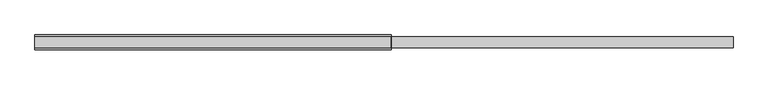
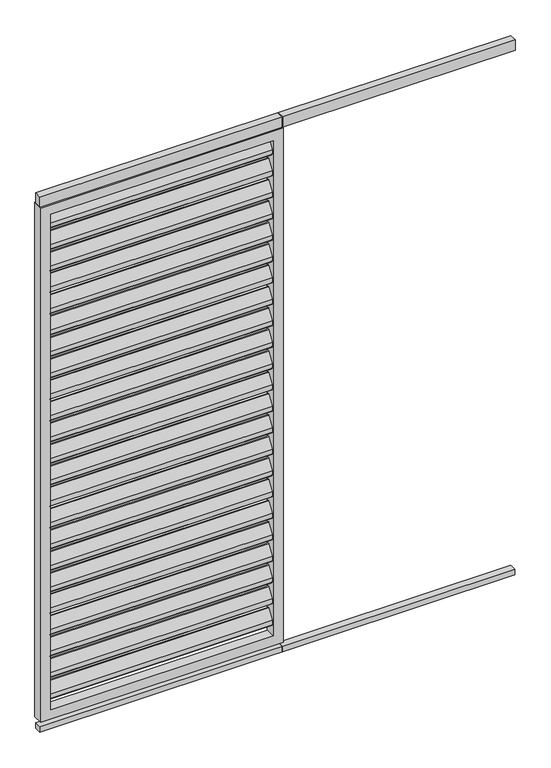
"""IFC4 building model written with IfcOpenShell, lengths in millimetres: proxy geometry, Renson_Camargue_Loggia_Paro_Aluminium : Renson_Camargue_Loggia_Paro_Aluminium."""

from ifc_helpers import new_model, si_unit, point, frame, frame_2d, origin, origin_with_axes, place, context, project, spatial, polyline, circle_curve, trimmed, segment, composite_curve, outline, extrude, source, transform, mapped, element, save


def generic_models_e57e72d8(model_context):
    return source(origin(), model_context, "Body", "SweptSolid", [
        extrude(outline(composite_curve([segment(trimmed(circle_curve(frame_2d((12.6675921, 2162.6587719)), 3.0), [point((10.1515804, 2164.292689))], [point((15.6675921, 2162.6587719))], False, "CARTESIAN"), True, "CONTINUOUS"), segment(polyline([(15.6675921, 2162.6587719), (15.6675921, 2144.2979873)]), True, "CONTINUOUS"), segment(trimmed(circle_curve(frame_2d((12.6675921, 2144.2979873)), 3.0), [point((15.6675921, 2144.2979873))], [point((15.1836038, 2142.6640702))], False, "CARTESIAN"), True, "CONTINUOUS"), segment(polyline([(15.1836038, 2142.6640702), (-8.8163962, 2105.707311)]), True, "CONTINUOUS"), segment(trimmed(circle_curve(frame_2d((-11.3324079, 2107.3412281)), 3.0), [point((-8.8163962, 2105.707311))], [point((-14.3324079, 2107.3412281))], False, "CARTESIAN"), True, "CONTINUOUS"), segment(polyline([(-14.3324079, 2107.3412281), (-14.3324079, 2126.5906532), (10.1515804, 2164.292689)]), True, "CONTINUOUS")], self_intersect=False)), frame((-442.5, 0.0, 0.0), z_axis=(1.0, 0.0, 0.0), x_axis=(0.0, 1.0, 0.0)), (0.0, 0.0, 1.0), 885.0),
        extrude(outline(composite_curve([segment(trimmed(circle_curve(frame_2d((12.6675921, 2072.6587719)), 3.0), [point((10.1515804, 2074.292689))], [point((15.6675921, 2072.6587719))], False, "CARTESIAN"), True, "CONTINUOUS"), segment(polyline([(15.6675921, 2072.6587719), (15.6675921, 2054.2979873)]), True, "CONTINUOUS"), segment(trimmed(circle_curve(frame_2d((12.6675921, 2054.2979873)), 3.0), [point((15.6675921, 2054.2979873))], [point((15.1836038, 2052.6640702))], False, "CARTESIAN"), True, "CONTINUOUS"), segment(polyline([(15.1836038, 2052.6640702), (-8.8163962, 2015.707311)]), True, "CONTINUOUS"), segment(trimmed(circle_curve(frame_2d((-11.3324079, 2017.3412281)), 3.0), [point((-8.8163962, 2015.707311))], [point((-14.3324079, 2017.3412281))], False, "CARTESIAN"), True, "CONTINUOUS"), segment(polyline([(-14.3324079, 2017.3412281), (-14.3324079, 2036.5906532), (10.1515804, 2074.292689)]), True, "CONTINUOUS")], self_intersect=False)), frame((-442.5, 0.0, 0.0), z_axis=(1.0, 0.0, 0.0), x_axis=(0.0, 1.0, 0.0)), (0.0, 0.0, 1.0), 885.0),
        extrude(outline(composite_curve([segment(trimmed(circle_curve(frame_2d((12.6675921, 1982.6587719)), 3.0), [point((10.1515804, 1984.292689))], [point((15.6675921, 1982.6587719))], False, "CARTESIAN"), True, "CONTINUOUS"), segment(polyline([(15.6675921, 1982.6587719), (15.6675921, 1964.2979873)]), True, "CONTINUOUS"), segment(trimmed(circle_curve(frame_2d((12.6675921, 1964.2979873)), 3.0), [point((15.6675921, 1964.2979873))], [point((15.1836038, 1962.6640702))], False, "CARTESIAN"), True, "CONTINUOUS"), segment(polyline([(15.1836038, 1962.6640702), (-8.8163962, 1925.707311)]), True, "CONTINUOUS"), segment(trimmed(circle_curve(frame_2d((-11.3324079, 1927.3412281)), 3.0), [point((-8.8163962, 1925.707311))], [point((-14.3324079, 1927.3412281))], False, "CARTESIAN"), True, "CONTINUOUS"), segment(polyline([(-14.3324079, 1927.3412281), (-14.3324079, 1946.5906532), (10.1515804, 1984.292689)]), True, "CONTINUOUS")], self_intersect=False)), frame((-442.5, 0.0, 0.0), z_axis=(1.0, 0.0, 0.0), x_axis=(0.0, 1.0, 0.0)), (0.0, 0.0, 1.0), 885.0),
        extrude(outline(composite_curve([segment(trimmed(circle_curve(frame_2d((12.6675921, 1892.6587719)), 3.0), [point((10.1515804, 1894.292689))], [point((15.6675921, 1892.6587719))], False, "CARTESIAN"), True, "CONTINUOUS"), segment(polyline([(15.6675921, 1892.6587719), (15.6675921, 1874.2979873)]), True, "CONTINUOUS"), segment(trimmed(circle_curve(frame_2d((12.6675921, 1874.2979873)), 3.0), [point((15.6675921, 1874.2979873))], [point((15.1836038, 1872.6640702))], False, "CARTESIAN"), True, "CONTINUOUS"), segment(polyline([(15.1836038, 1872.6640702), (-8.8163962, 1835.707311)]), True, "CONTINUOUS"), segment(trimmed(circle_curve(frame_2d((-11.3324079, 1837.3412281)), 3.0), [point((-8.8163962, 1835.707311))], [point((-14.3324079, 1837.3412281))], False, "CARTESIAN"), True, "CONTINUOUS"), segment(polyline([(-14.3324079, 1837.3412281), (-14.3324079, 1856.5906532), (10.1515804, 1894.292689)]), True, "CONTINUOUS")], self_intersect=False)), frame((-442.5, 0.0, 0.0), z_axis=(1.0, 0.0, 0.0), x_axis=(0.0, 1.0, 0.0)), (0.0, 0.0, 1.0), 885.0),
        extrude(outline(composite_curve([segment(trimmed(circle_curve(frame_2d((12.6675921, 1802.6587719)), 3.0), [point((10.1515804, 1804.292689))], [point((15.6675921, 1802.6587719))], False, "CARTESIAN"), True, "CONTINUOUS"), segment(polyline([(15.6675921, 1802.6587719), (15.6675921, 1784.2979873)]), True, "CONTINUOUS"), segment(trimmed(circle_curve(frame_2d((12.6675921, 1784.2979873)), 3.0), [point((15.6675921, 1784.2979873))], [point((15.1836038, 1782.6640702))], False, "CARTESIAN"), True, "CONTINUOUS"), segment(polyline([(15.1836038, 1782.6640702), (-8.8163962, 1745.707311)]), True, "CONTINUOUS"), segment(trimmed(circle_curve(frame_2d((-11.3324079, 1747.3412281)), 3.0), [point((-8.8163962, 1745.707311))], [point((-14.3324079, 1747.3412281))], False, "CARTESIAN"), True, "CONTINUOUS"), segment(polyline([(-14.3324079, 1747.3412281), (-14.3324079, 1766.5906532), (10.1515804, 1804.292689)]), True, "CONTINUOUS")], self_intersect=False)), frame((-442.5, 0.0, 0.0), z_axis=(1.0, 0.0, 0.0), x_axis=(0.0, 1.0, 0.0)), (0.0, 0.0, 1.0), 885.0),
        extrude(outline(composite_curve([segment(trimmed(circle_curve(frame_2d((12.6675921, 1712.6587719)), 3.0), [point((10.1515804, 1714.292689))], [point((15.6675921, 1712.6587719))], False, "CARTESIAN"), True, "CONTINUOUS"), segment(polyline([(15.6675921, 1712.6587719), (15.6675921, 1694.2979873)]), True, "CONTINUOUS"), segment(trimmed(circle_curve(frame_2d((12.6675921, 1694.2979873)), 3.0), [point((15.6675921, 1694.2979873))], [point((15.1836038, 1692.6640702))], False, "CARTESIAN"), True, "CONTINUOUS"), segment(polyline([(15.1836038, 1692.6640702), (-8.8163962, 1655.707311)]), True, "CONTINUOUS"), segment(trimmed(circle_curve(frame_2d((-11.3324079, 1657.3412281)), 3.0), [point((-8.8163962, 1655.707311))], [point((-14.3324079, 1657.3412281))], False, "CARTESIAN"), True, "CONTINUOUS"), segment(polyline([(-14.3324079, 1657.3412281), (-14.3324079, 1676.5906532), (10.1515804, 1714.292689)]), True, "CONTINUOUS")], self_intersect=False)), frame((-442.5, 0.0, 0.0), z_axis=(1.0, 0.0, 0.0), x_axis=(0.0, 1.0, 0.0)), (0.0, 0.0, 1.0), 885.0),
        extrude(outline(composite_curve([segment(trimmed(circle_curve(frame_2d((12.6675921, 1622.6587719)), 3.0), [point((10.1515804, 1624.292689))], [point((15.6675921, 1622.6587719))], False, "CARTESIAN"), True, "CONTINUOUS"), segment(polyline([(15.6675921, 1622.6587719), (15.6675921, 1604.2979873)]), True, "CONTINUOUS"), segment(trimmed(circle_curve(frame_2d((12.6675921, 1604.2979873)), 3.0), [point((15.6675921, 1604.2979873))], [point((15.1836038, 1602.6640702))], False, "CARTESIAN"), True, "CONTINUOUS"), segment(polyline([(15.1836038, 1602.6640702), (-8.8163962, 1565.707311)]), True, "CONTINUOUS"), segment(trimmed(circle_curve(frame_2d((-11.3324079, 1567.3412281)), 3.0), [point((-8.8163962, 1565.707311))], [point((-14.3324079, 1567.3412281))], False, "CARTESIAN"), True, "CONTINUOUS"), segment(polyline([(-14.3324079, 1567.3412281), (-14.3324079, 1586.5906532), (10.1515804, 1624.292689)]), True, "CONTINUOUS")], self_intersect=False)), frame((-442.5, 0.0, 0.0), z_axis=(1.0, 0.0, 0.0), x_axis=(0.0, 1.0, 0.0)), (0.0, 0.0, 1.0), 885.0),
        extrude(outline(composite_curve([segment(trimmed(circle_curve(frame_2d((12.6675921, 1532.6587719)), 3.0), [point((10.1515804, 1534.292689))], [point((15.6675921, 1532.6587719))], False, "CARTESIAN"), True, "CONTINUOUS"), segment(polyline([(15.6675921, 1532.6587719), (15.6675921, 1514.2979873)]), True, "CONTINUOUS"), segment(trimmed(circle_curve(frame_2d((12.6675921, 1514.2979873)), 3.0), [point((15.6675921, 1514.2979873))], [point((15.1836038, 1512.6640702))], False, "CARTESIAN"), True, "CONTINUOUS"), segment(polyline([(15.1836038, 1512.6640702), (-8.8163962, 1475.707311)]), True, "CONTINUOUS"), segment(trimmed(circle_curve(frame_2d((-11.3324079, 1477.3412281)), 3.0), [point((-8.8163962, 1475.707311))], [point((-14.3324079, 1477.3412281))], False, "CARTESIAN"), True, "CONTINUOUS"), segment(polyline([(-14.3324079, 1477.3412281), (-14.3324079, 1496.5906532), (10.1515804, 1534.292689)]), True, "CONTINUOUS")], self_intersect=False)), frame((-442.5, 0.0, 0.0), z_axis=(1.0, 0.0, 0.0), x_axis=(0.0, 1.0, 0.0)), (0.0, 0.0, 1.0), 885.0),
        extrude(outline(composite_curve([segment(trimmed(circle_curve(frame_2d((12.6675921, 1442.6587719)), 3.0), [point((10.1515804, 1444.292689))], [point((15.6675921, 1442.6587719))], False, "CARTESIAN"), True, "CONTINUOUS"), segment(polyline([(15.6675921, 1442.6587719), (15.6675921, 1424.2979873)]), True, "CONTINUOUS"), segment(trimmed(circle_curve(frame_2d((12.6675921, 1424.2979873)), 3.0), [point((15.6675921, 1424.2979873))], [point((15.1836038, 1422.6640702))], False, "CARTESIAN"), True, "CONTINUOUS"), segment(polyline([(15.1836038, 1422.6640702), (-8.8163962, 1385.707311)]), True, "CONTINUOUS"), segment(trimmed(circle_curve(frame_2d((-11.3324079, 1387.3412281)), 3.0), [point((-8.8163962, 1385.707311))], [point((-14.3324079, 1387.3412281))], False, "CARTESIAN"), True, "CONTINUOUS"), segment(polyline([(-14.3324079, 1387.3412281), (-14.3324079, 1406.5906532), (10.1515804, 1444.292689)]), True, "CONTINUOUS")], self_intersect=False)), frame((-442.5, 0.0, 0.0), z_axis=(1.0, 0.0, 0.0), x_axis=(0.0, 1.0, 0.0)), (0.0, 0.0, 1.0), 885.0),
        extrude(outline(composite_curve([segment(trimmed(circle_curve(frame_2d((12.6675921, 1352.6587719)), 3.0), [point((10.1515804, 1354.292689))], [point((15.6675921, 1352.6587719))], False, "CARTESIAN"), True, "CONTINUOUS"), segment(polyline([(15.6675921, 1352.6587719), (15.6675921, 1334.2979873)]), True, "CONTINUOUS"), segment(trimmed(circle_curve(frame_2d((12.6675921, 1334.2979873)), 3.0), [point((15.6675921, 1334.2979873))], [point((15.1836038, 1332.6640702))], False, "CARTESIAN"), True, "CONTINUOUS"), segment(polyline([(15.1836038, 1332.6640702), (-8.8163962, 1295.707311)]), True, "CONTINUOUS"), segment(trimmed(circle_curve(frame_2d((-11.3324079, 1297.3412281)), 3.0), [point((-8.8163962, 1295.707311))], [point((-14.3324079, 1297.3412281))], False, "CARTESIAN"), True, "CONTINUOUS"), segment(polyline([(-14.3324079, 1297.3412281), (-14.3324079, 1316.5906532), (10.1515804, 1354.292689)]), True, "CONTINUOUS")], self_intersect=False)), frame((-442.5, 0.0, 0.0), z_axis=(1.0, 0.0, 0.0), x_axis=(0.0, 1.0, 0.0)), (0.0, 0.0, 1.0), 885.0),
        extrude(outline(composite_curve([segment(trimmed(circle_curve(frame_2d((12.6675921, 1262.6587719)), 3.0), [point((10.1515804, 1264.292689))], [point((15.6675921, 1262.6587719))], False, "CARTESIAN"), True, "CONTINUOUS"), segment(polyline([(15.6675921, 1262.6587719), (15.6675921, 1244.2979873)]), True, "CONTINUOUS"), segment(trimmed(circle_curve(frame_2d((12.6675921, 1244.2979873)), 3.0), [point((15.6675921, 1244.2979873))], [point((15.1836038, 1242.6640702))], False, "CARTESIAN"), True, "CONTINUOUS"), segment(polyline([(15.1836038, 1242.6640702), (-8.8163962, 1205.707311)]), True, "CONTINUOUS"), segment(trimmed(circle_curve(frame_2d((-11.3324079, 1207.3412281)), 3.0), [point((-8.8163962, 1205.707311))], [point((-14.3324079, 1207.3412281))], False, "CARTESIAN"), True, "CONTINUOUS"), segment(polyline([(-14.3324079, 1207.3412281), (-14.3324079, 1226.5906532), (10.1515804, 1264.292689)]), True, "CONTINUOUS")], self_intersect=False)), frame((-442.5, 0.0, 0.0), z_axis=(1.0, 0.0, 0.0), x_axis=(0.0, 1.0, 0.0)), (0.0, 0.0, 1.0), 885.0),
        extrude(outline(composite_curve([segment(trimmed(circle_curve(frame_2d((12.6675921, 1172.6587719)), 3.0), [point((10.1515804, 1174.292689))], [point((15.6675921, 1172.6587719))], False, "CARTESIAN"), True, "CONTINUOUS"), segment(polyline([(15.6675921, 1172.6587719), (15.6675921, 1154.2979873)]), True, "CONTINUOUS"), segment(trimmed(circle_curve(frame_2d((12.6675921, 1154.2979873)), 3.0), [point((15.6675921, 1154.2979873))], [point((15.1836038, 1152.6640702))], False, "CARTESIAN"), True, "CONTINUOUS"), segment(polyline([(15.1836038, 1152.6640702), (-8.8163962, 1115.707311)]), True, "CONTINUOUS"), segment(trimmed(circle_curve(frame_2d((-11.3324079, 1117.3412281)), 3.0), [point((-8.8163962, 1115.707311))], [point((-14.3324079, 1117.3412281))], False, "CARTESIAN"), True, "CONTINUOUS"), segment(polyline([(-14.3324079, 1117.3412281), (-14.3324079, 1136.5906532), (10.1515804, 1174.292689)]), True, "CONTINUOUS")], self_intersect=False)), frame((-442.5, 0.0, 0.0), z_axis=(1.0, 0.0, 0.0), x_axis=(0.0, 1.0, 0.0)), (0.0, 0.0, 1.0), 885.0),
        extrude(outline(composite_curve([segment(trimmed(circle_curve(frame_2d((12.6675921, 1082.6587719)), 3.0), [point((10.1515804, 1084.292689))], [point((15.6675921, 1082.6587719))], False, "CARTESIAN"), True, "CONTINUOUS"), segment(polyline([(15.6675921, 1082.6587719), (15.6675921, 1064.2979873)]), True, "CONTINUOUS"), segment(trimmed(circle_curve(frame_2d((12.6675921, 1064.2979873)), 3.0), [point((15.6675921, 1064.2979873))], [point((15.1836038, 1062.6640702))], False, "CARTESIAN"), True, "CONTINUOUS"), segment(polyline([(15.1836038, 1062.6640702), (-8.8163962, 1025.707311)]), True, "CONTINUOUS"), segment(trimmed(circle_curve(frame_2d((-11.3324079, 1027.3412281)), 3.0), [point((-8.8163962, 1025.707311))], [point((-14.3324079, 1027.3412281))], False, "CARTESIAN"), True, "CONTINUOUS"), segment(polyline([(-14.3324079, 1027.3412281), (-14.3324079, 1046.5906532), (10.1515804, 1084.292689)]), True, "CONTINUOUS")], self_intersect=False)), frame((-442.5, 0.0, 0.0), z_axis=(1.0, 0.0, 0.0), x_axis=(0.0, 1.0, 0.0)), (0.0, 0.0, 1.0), 885.0),
        extrude(outline(composite_curve([segment(trimmed(circle_curve(frame_2d((12.6675921, 992.6587719)), 3.0), [point((10.1515804, 994.292689))], [point((15.6675921, 992.6587719))], False, "CARTESIAN"), True, "CONTINUOUS"), segment(polyline([(15.6675921, 992.6587719), (15.6675921, 974.2979873)]), True, "CONTINUOUS"), segment(trimmed(circle_curve(frame_2d((12.6675921, 974.2979873)), 3.0), [point((15.6675921, 974.2979873))], [point((15.1836038, 972.6640702))], False, "CARTESIAN"), True, "CONTINUOUS"), segment(polyline([(15.1836038, 972.6640702), (-8.8163962, 935.707311)]), True, "CONTINUOUS"), segment(trimmed(circle_curve(frame_2d((-11.3324079, 937.3412281)), 3.0), [point((-8.8163962, 935.707311))], [point((-14.3324079, 937.3412281))], False, "CARTESIAN"), True, "CONTINUOUS"), segment(polyline([(-14.3324079, 937.3412281), (-14.3324079, 956.5906532), (10.1515804, 994.292689)]), True, "CONTINUOUS")], self_intersect=False)), frame((-442.5, 0.0, 0.0), z_axis=(1.0, 0.0, 0.0), x_axis=(0.0, 1.0, 0.0)), (0.0, 0.0, 1.0), 885.0),
        extrude(outline(composite_curve([segment(trimmed(circle_curve(frame_2d((12.6675921, 902.6587719)), 3.0), [point((10.1515804, 904.292689))], [point((15.6675921, 902.6587719))], False, "CARTESIAN"), True, "CONTINUOUS"), segment(polyline([(15.6675921, 902.6587719), (15.6675921, 884.2979873)]), True, "CONTINUOUS"), segment(trimmed(circle_curve(frame_2d((12.6675921, 884.2979873)), 3.0), [point((15.6675921, 884.2979873))], [point((15.1836038, 882.6640702))], False, "CARTESIAN"), True, "CONTINUOUS"), segment(polyline([(15.1836038, 882.6640702), (-8.8163962, 845.707311)]), True, "CONTINUOUS"), segment(trimmed(circle_curve(frame_2d((-11.3324079, 847.3412281)), 3.0), [point((-8.8163962, 845.707311))], [point((-14.3324079, 847.3412281))], False, "CARTESIAN"), True, "CONTINUOUS"), segment(polyline([(-14.3324079, 847.3412281), (-14.3324079, 866.5906532), (10.1515804, 904.292689)]), True, "CONTINUOUS")], self_intersect=False)), frame((-442.5, 0.0, 0.0), z_axis=(1.0, 0.0, 0.0), x_axis=(0.0, 1.0, 0.0)), (0.0, 0.0, 1.0), 885.0),
        extrude(outline(composite_curve([segment(trimmed(circle_curve(frame_2d((12.6675921, 812.6587719)), 3.0), [point((10.1515804, 814.292689))], [point((15.6675921, 812.6587719))], False, "CARTESIAN"), True, "CONTINUOUS"), segment(polyline([(15.6675921, 812.6587719), (15.6675921, 794.2979873)]), True, "CONTINUOUS"), segment(trimmed(circle_curve(frame_2d((12.6675921, 794.2979873)), 3.0), [point((15.6675921, 794.2979873))], [point((15.1836038, 792.6640702))], False, "CARTESIAN"), True, "CONTINUOUS"), segment(polyline([(15.1836038, 792.6640702), (-8.8163962, 755.707311)]), True, "CONTINUOUS"), segment(trimmed(circle_curve(frame_2d((-11.3324079, 757.3412281)), 3.0), [point((-8.8163962, 755.707311))], [point((-14.3324079, 757.3412281))], False, "CARTESIAN"), True, "CONTINUOUS"), segment(polyline([(-14.3324079, 757.3412281), (-14.3324079, 776.5906532), (10.1515804, 814.292689)]), True, "CONTINUOUS")], self_intersect=False)), frame((-442.5, 0.0, 0.0), z_axis=(1.0, 0.0, 0.0), x_axis=(0.0, 1.0, 0.0)), (0.0, 0.0, 1.0), 885.0),
        extrude(outline(composite_curve([segment(trimmed(circle_curve(frame_2d((12.6675921, 722.6587719)), 3.0), [point((10.1515804, 724.292689))], [point((15.6675921, 722.6587719))], False, "CARTESIAN"), True, "CONTINUOUS"), segment(polyline([(15.6675921, 722.6587719), (15.6675921, 704.2979873)]), True, "CONTINUOUS"), segment(trimmed(circle_curve(frame_2d((12.6675921, 704.2979873)), 3.0), [point((15.6675921, 704.2979873))], [point((15.1836038, 702.6640702))], False, "CARTESIAN"), True, "CONTINUOUS"), segment(polyline([(15.1836038, 702.6640702), (-8.8163962, 665.707311)]), True, "CONTINUOUS"), segment(trimmed(circle_curve(frame_2d((-11.3324079, 667.3412281)), 3.0), [point((-8.8163962, 665.707311))], [point((-14.3324079, 667.3412281))], False, "CARTESIAN"), True, "CONTINUOUS"), segment(polyline([(-14.3324079, 667.3412281), (-14.3324079, 686.5906532), (10.1515804, 724.292689)]), True, "CONTINUOUS")], self_intersect=False)), frame((-442.5, 0.0, 0.0), z_axis=(1.0, 0.0, 0.0), x_axis=(0.0, 1.0, 0.0)), (0.0, 0.0, 1.0), 885.0),
        extrude(outline(composite_curve([segment(trimmed(circle_curve(frame_2d((12.6675921, 632.6587719)), 3.0), [point((10.1515804, 634.292689))], [point((15.6675921, 632.6587719))], False, "CARTESIAN"), True, "CONTINUOUS"), segment(polyline([(15.6675921, 632.6587719), (15.6675921, 614.2979873)]), True, "CONTINUOUS"), segment(trimmed(circle_curve(frame_2d((12.6675921, 614.2979873)), 3.0), [point((15.6675921, 614.2979873))], [point((15.1836038, 612.6640702))], False, "CARTESIAN"), True, "CONTINUOUS"), segment(polyline([(15.1836038, 612.6640702), (-8.8163962, 575.707311)]), True, "CONTINUOUS"), segment(trimmed(circle_curve(frame_2d((-11.3324079, 577.3412281)), 3.0), [point((-8.8163962, 575.707311))], [point((-14.3324079, 577.3412281))], False, "CARTESIAN"), True, "CONTINUOUS"), segment(polyline([(-14.3324079, 577.3412281), (-14.3324079, 596.5906532), (10.1515804, 634.292689)]), True, "CONTINUOUS")], self_intersect=False)), frame((-442.5, 0.0, 0.0), z_axis=(1.0, 0.0, 0.0), x_axis=(0.0, 1.0, 0.0)), (0.0, 0.0, 1.0), 885.0),
        extrude(outline(composite_curve([segment(trimmed(circle_curve(frame_2d((12.6675921, 542.6587719)), 3.0), [point((10.1515804, 544.292689))], [point((15.6675921, 542.6587719))], False, "CARTESIAN"), True, "CONTINUOUS"), segment(polyline([(15.6675921, 542.6587719), (15.6675921, 524.2979873)]), True, "CONTINUOUS"), segment(trimmed(circle_curve(frame_2d((12.6675921, 524.2979873)), 3.0), [point((15.6675921, 524.2979873))], [point((15.1836038, 522.6640702))], False, "CARTESIAN"), True, "CONTINUOUS"), segment(polyline([(15.1836038, 522.6640702), (-8.8163962, 485.707311)]), True, "CONTINUOUS"), segment(trimmed(circle_curve(frame_2d((-11.3324079, 487.3412281)), 3.0), [point((-8.8163962, 485.707311))], [point((-14.3324079, 487.3412281))], False, "CARTESIAN"), True, "CONTINUOUS"), segment(polyline([(-14.3324079, 487.3412281), (-14.3324079, 506.5906532), (10.1515804, 544.292689)]), True, "CONTINUOUS")], self_intersect=False)), frame((-442.5, 0.0, 0.0), z_axis=(1.0, 0.0, 0.0), x_axis=(0.0, 1.0, 0.0)), (0.0, 0.0, 1.0), 885.0),
        extrude(outline(composite_curve([segment(trimmed(circle_curve(frame_2d((12.6675921, 452.6587719)), 3.0), [point((10.1515804, 454.292689))], [point((15.6675921, 452.6587719))], False, "CARTESIAN"), True, "CONTINUOUS"), segment(polyline([(15.6675921, 452.6587719), (15.6675921, 434.2979873)]), True, "CONTINUOUS"), segment(trimmed(circle_curve(frame_2d((12.6675921, 434.2979873)), 3.0), [point((15.6675921, 434.2979873))], [point((15.1836038, 432.6640702))], False, "CARTESIAN"), True, "CONTINUOUS"), segment(polyline([(15.1836038, 432.6640702), (-8.8163962, 395.707311)]), True, "CONTINUOUS"), segment(trimmed(circle_curve(frame_2d((-11.3324079, 397.3412281)), 3.0), [point((-8.8163962, 395.707311))], [point((-14.3324079, 397.3412281))], False, "CARTESIAN"), True, "CONTINUOUS"), segment(polyline([(-14.3324079, 397.3412281), (-14.3324079, 416.5906532), (10.1515804, 454.292689)]), True, "CONTINUOUS")], self_intersect=False)), frame((-442.5, 0.0, 0.0), z_axis=(1.0, 0.0, 0.0), x_axis=(0.0, 1.0, 0.0)), (0.0, 0.0, 1.0), 885.0),
        extrude(outline(composite_curve([segment(trimmed(circle_curve(frame_2d((12.6675921, 362.6587719)), 3.0), [point((10.1515804, 364.292689))], [point((15.6675921, 362.6587719))], False, "CARTESIAN"), True, "CONTINUOUS"), segment(polyline([(15.6675921, 362.6587719), (15.6675921, 344.2979873)]), True, "CONTINUOUS"), segment(trimmed(circle_curve(frame_2d((12.6675921, 344.2979873)), 3.0), [point((15.6675921, 344.2979873))], [point((15.1836038, 342.6640702))], False, "CARTESIAN"), True, "CONTINUOUS"), segment(polyline([(15.1836038, 342.6640702), (-8.8163962, 305.707311)]), True, "CONTINUOUS"), segment(trimmed(circle_curve(frame_2d((-11.3324079, 307.3412281)), 3.0), [point((-8.8163962, 305.707311))], [point((-14.3324079, 307.3412281))], False, "CARTESIAN"), True, "CONTINUOUS"), segment(polyline([(-14.3324079, 307.3412281), (-14.3324079, 326.5906532), (10.1515804, 364.292689)]), True, "CONTINUOUS")], self_intersect=False)), frame((-442.5, 0.0, 0.0), z_axis=(1.0, 0.0, 0.0), x_axis=(0.0, 1.0, 0.0)), (0.0, 0.0, 1.0), 885.0),
        extrude(outline(composite_curve([segment(trimmed(circle_curve(frame_2d((12.6675921, 272.6587719)), 3.0), [point((10.1515804, 274.292689))], [point((15.6675921, 272.6587719))], False, "CARTESIAN"), True, "CONTINUOUS"), segment(polyline([(15.6675921, 272.6587719), (15.6675921, 254.2979873)]), True, "CONTINUOUS"), segment(trimmed(circle_curve(frame_2d((12.6675921, 254.2979873)), 3.0), [point((15.6675921, 254.2979873))], [point((15.1836038, 252.6640702))], False, "CARTESIAN"), True, "CONTINUOUS"), segment(polyline([(15.1836038, 252.6640702), (-8.8163962, 215.707311)]), True, "CONTINUOUS"), segment(trimmed(circle_curve(frame_2d((-11.3324079, 217.3412281)), 3.0), [point((-8.8163962, 215.707311))], [point((-14.3324079, 217.3412281))], False, "CARTESIAN"), True, "CONTINUOUS"), segment(polyline([(-14.3324079, 217.3412281), (-14.3324079, 236.5906532), (10.1515804, 274.292689)]), True, "CONTINUOUS")], self_intersect=False)), frame((-442.5, 0.0, 0.0), z_axis=(1.0, 0.0, 0.0), x_axis=(0.0, 1.0, 0.0)), (0.0, 0.0, 1.0), 885.0),
        extrude(outline(composite_curve([segment(trimmed(circle_curve(frame_2d((12.6675921, 182.6587719)), 3.0), [point((10.1515804, 184.292689))], [point((15.6675921, 182.6587719))], False, "CARTESIAN"), True, "CONTINUOUS"), segment(polyline([(15.6675921, 182.6587719), (15.6675921, 164.2979873)]), True, "CONTINUOUS"), segment(trimmed(circle_curve(frame_2d((12.6675921, 164.2979873)), 3.0), [point((15.6675921, 164.2979873))], [point((15.1836038, 162.6640702))], False, "CARTESIAN"), True, "CONTINUOUS"), segment(polyline([(15.1836038, 162.6640702), (-8.8163962, 125.707311)]), True, "CONTINUOUS"), segment(trimmed(circle_curve(frame_2d((-11.3324079, 127.3412281)), 3.0), [point((-8.8163962, 125.707311))], [point((-14.3324079, 127.3412281))], False, "CARTESIAN"), True, "CONTINUOUS"), segment(polyline([(-14.3324079, 127.3412281), (-14.3324079, 146.5906532), (10.1515804, 184.292689)]), True, "CONTINUOUS")], self_intersect=False)), frame((-442.5, 0.0, 0.0), z_axis=(1.0, 0.0, 0.0), x_axis=(0.0, 1.0, 0.0)), (0.0, 0.0, 1.0), 885.0),
        extrude(outline(polyline([(482.5, 15.0), (482.5, -15.0), (481.5, -15.0), (481.5, 15.0), (482.5, 15.0)])), frame((0.0, 0.0, 2207.7138321), z_axis=(0.0, 0.0, 1.0), x_axis=(1.0, 0.0, 0.0)), (0.0, 0.0, 1.0), 42.2861679),
        extrude(outline(polyline([(1407.5, 15.0), (1407.5, -15.0), (-482.5, -15.0), (-482.5, 15.0), (1407.5, 15.0)])), frame((0.0, 0.0, 2207.7138321), z_axis=(0.0, 0.0, 1.0), x_axis=(1.0, 0.0, 0.0)), (0.0, 0.0, 1.0), 42.2861679),
        extrude(outline(polyline([(482.5, -13.0), (481.5, -13.0), (481.5, 14.0), (482.5, 14.0), (482.5, -13.0)])), origin_with_axes(), (0.0, 0.0, 1.0), 23.0),
        extrude(outline(polyline([(1407.5, -13.0), (-482.5, -13.0), (-482.5, 14.0), (1407.5, 14.0), (1407.5, -13.0)])), origin_with_axes(), (0.0, 0.0, 1.0), 23.0),
        extrude(outline(polyline([(2207.7138321, -482.5), (45.0, -482.5), (45.0, 482.5), (2207.7138321, 482.5), (2207.7138321, -482.5)]), holes=[polyline([(2167.7138321, 442.5), (85.0, 442.5), (85.0, -442.5), (2167.7138321, -442.5), (2167.7138321, 442.5)])]), frame((0.0, -20.0, 0.0), z_axis=(0.0, 1.0, 0.0), x_axis=(0.0, 0.0, 1.0)), (0.0, 0.0, 1.0), 40.0),
    ])


if __name__ == "__main__":
    model = new_model("IFC4")
    model_context = context("Model", 3, world=origin())
    ifc_project = project(units=[si_unit("LENGTHUNIT", "METRE", prefix="MILLI")], contexts=[model_context])
    site = spatial("IfcSite", under=ifc_project)
    building = spatial("IfcBuilding", under=site)
    placement = place(None, origin())
    generic_models_shape = generic_models_e57e72d8(model_context)
    element("IfcBuildingElementProxy", 1, Name="Renson_Camargue_Loggia_Paro_Aluminium : Renson_Camargue_Loggia_Paro_Aluminium", ObjectType="Renson_Camargue_Loggia_Paro_Aluminium : Renson_Camargue_Loggia_Paro_Aluminium", at=placement, inside=building, context=model_context, shape_type="MappedRepresentation", body=[
        mapped(generic_models_shape, transform((0.0, 0.0, 0.0), x_axis=(1.0, 0.0, 0.0), y_axis=(0.0, 1.0, 0.0), z_axis=(0.0, 0.0, 1.0))),
    ])
    save(model, "model.ifc")
